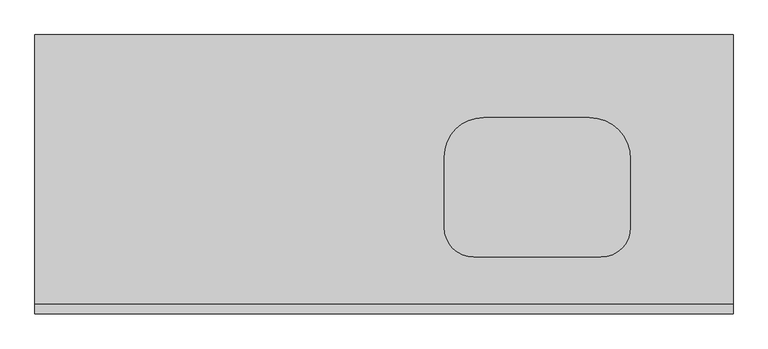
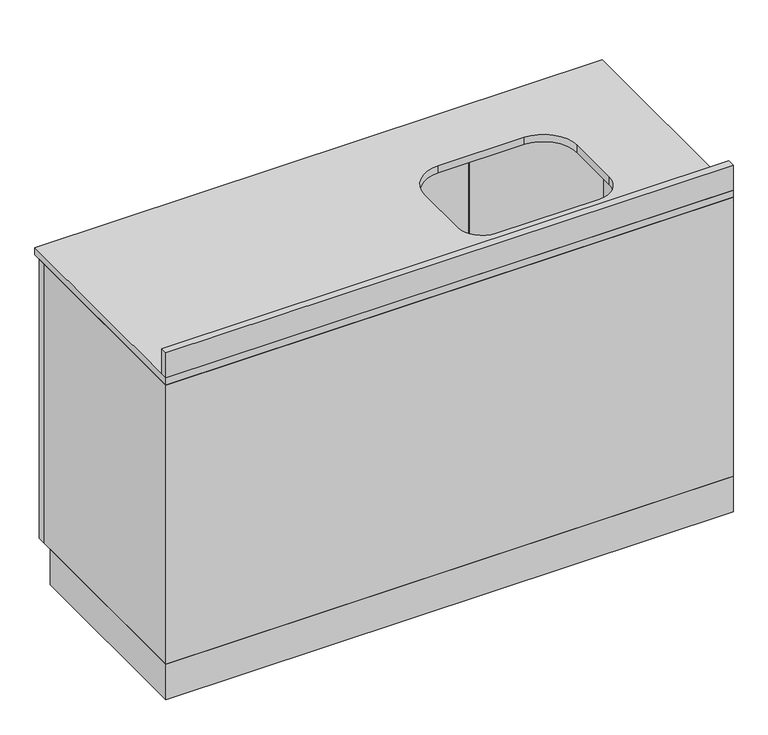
"""IFC4 building model written with IfcOpenShell, lengths in millimetres: furniture geometry, ARQ_MOB_BAÑO-04 : MUEBLE_BAÑO-04."""

from ifc_helpers import new_model, si_unit, point, frame, frame_2d, origin, origin_with_axes, place, context, project, spatial, polyline, circle_curve, trimmed, segment, composite_curve, outline, extrude, source, transform, mapped, element, save


def furniture_5edcbb02(model_context):
    return source(origin(), model_context, "Body", "SweptSolid", [
        extrude(outline(polyline([(-705.2996736, 20.0), (794.7003264, 20.0), (794.7003264, 0.0), (-705.2996736, 0.0), (-705.2996736, 20.0)])), frame((0.0, 0.0, 900.0), z_axis=(0.0, 0.0, 1.0), x_axis=(1.0, 0.0, 0.0)), (0.0, 0.0, 1.0), 70.0),
        extrude(outline(polyline([(-332.7996736, 560.0), (-705.2996736, 560.0), (-705.2996736, 580.0), (-332.7996736, 580.0), (-332.7996736, 560.0)])), frame((0.0, 0.0, 100.0), z_axis=(0.0, 0.0, 1.0), x_axis=(1.0, 0.0, 0.0)), (0.0, 0.0, 1.0), 780.0),
        extrude(outline(polyline([(-327.7996736, 580.0), (42.2003264, 580.0), (42.2003264, 560.0), (-327.7996736, 560.0), (-327.7996736, 580.0)])), frame((0.0, 0.0, 100.0), z_axis=(0.0, 0.0, 1.0), x_axis=(1.0, 0.0, 0.0)), (0.0, 0.0, 1.0), 780.0),
        extrude(outline(polyline([(417.2003264, 560.0), (47.2003264, 560.0), (47.2003264, 580.0), (417.2003264, 580.0), (417.2003264, 560.0)])), frame((0.0, 0.0, 100.0), z_axis=(0.0, 0.0, 1.0), x_axis=(1.0, 0.0, 0.0)), (0.0, 0.0, 1.0), 780.0),
        extrude(outline(polyline([(422.2003264, 580.0), (794.7003264, 580.0), (794.7003264, 560.0), (422.2003264, 560.0), (422.2003264, 580.0)])), frame((0.0, 0.0, 100.0), z_axis=(0.0, 0.0, 1.0), x_axis=(1.0, 0.0, 0.0)), (0.0, 0.0, 1.0), 780.0),
        extrude(outline(polyline([(-685.2996736, 20.0), (-685.2996736, 560.0), (774.7003264, 560.0), (774.7003264, 20.0), (-685.2996736, 20.0)])), frame((0.0, 0.0, 100.0), z_axis=(0.0, 0.0, 1.0), x_axis=(1.0, 0.0, 0.0)), (0.0, 0.0, 1.0), 20.0),
        extrude(outline(polyline([(794.7003264, 0.0), (-705.2996736, 0.0), (-705.2996736, 560.0), (-685.2996736, 560.0), (-685.2996736, 20.0), (774.7003264, 20.0), (774.7003264, 560.0), (794.7003264, 560.0), (794.7003264, 0.0)])), frame((0.0, 0.0, 100.0), z_axis=(0.0, 0.0, 1.0), x_axis=(1.0, 0.0, 0.0)), (0.0, 0.0, 1.0), 780.0),
        extrude(outline(polyline([(794.7003264, 0.0), (-705.2996736, 0.0), (-705.2996736, 530.0), (794.7003264, 530.0), (794.7003264, 0.0)])), origin_with_axes(), (0.0, 0.0, 1.0), 100.0),
        extrude(outline(polyline([(794.7003264, 0.0), (-705.2996736, 0.0), (-705.2996736, 600.0), (794.7003264, 600.0), (794.7003264, 0.0)]), holes=[composite_curve([segment(trimmed(circle_curve(frame_2d((510.7752928, 185.4)), 63.5), [point((510.7752928, 121.9))], [point((574.2752928, 185.4))], True, "CARTESIAN"), True, "CONTINUOUS"), segment(polyline([(574.2752928, 185.4), (574.2752928, 333.0000001)]), True, "CONTINUOUS"), segment(trimmed(circle_curve(frame_2d((485.3752929, 333.0000001)), 88.8999999), [point((574.2752928, 333.0000001))], [point((485.3752929, 421.9))], True, "CARTESIAN"), True, "CONTINUOUS"), segment(polyline([(485.3752929, 421.9), (258.62536, 421.9)]), True, "CONTINUOUS"), segment(trimmed(circle_curve(frame_2d((258.62536, 337.5499329)), 84.3500671), [point((258.62536, 421.9))], [point((174.2752929, 337.5499329))], True, "CARTESIAN"), True, "CONTINUOUS"), segment(polyline([(174.2752929, 337.5499329), (174.2752929, 185.4)]), True, "CONTINUOUS"), segment(trimmed(circle_curve(frame_2d((237.7752929, 185.4)), 63.5), [point((174.2752929, 185.4))], [point((237.7752929, 121.9))], True, "CARTESIAN"), True, "CONTINUOUS"), segment(polyline([(237.7752929, 121.9), (510.7752928, 121.9)]), True, "CONTINUOUS")], self_intersect=False)]), frame((0.0, 0.0, 880.0), z_axis=(0.0, 0.0, 1.0), x_axis=(1.0, 0.0, 0.0)), (0.0, 0.0, 1.0), 20.0),
    ])


if __name__ == "__main__":
    model = new_model("IFC4")
    model_context = context("Model", 3, world=origin())
    ifc_project = project(units=[si_unit("LENGTHUNIT", "METRE", prefix="MILLI")], contexts=[model_context])
    site = spatial("IfcSite", under=ifc_project)
    building = spatial("IfcBuilding", under=site)
    placement = place(None, origin())
    furniture_shape = furniture_5edcbb02(model_context)
    element("IfcFurniture", 1, ObjectType="ARQ_MOB_BAÑO-04 : MUEBLE_BAÑO-04", at=placement, inside=building, context=model_context, shape_type="MappedRepresentation", body=[
        mapped(furniture_shape, transform((0.0, 0.0, 0.0), x_axis=(1.0, 0.0, 0.0), y_axis=(0.0, 1.0, 0.0), z_axis=(0.0, 0.0, 1.0))),
    ])
    save(model, "model.ifc")
